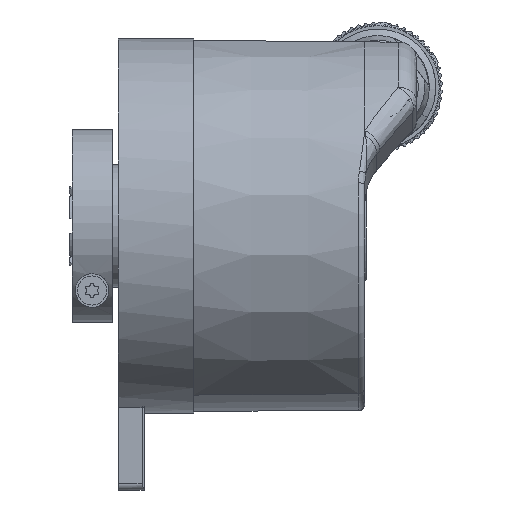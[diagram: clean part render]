
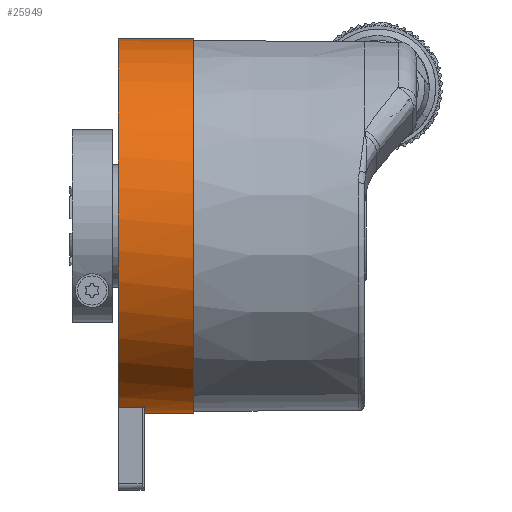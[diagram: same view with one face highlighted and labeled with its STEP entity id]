
A CAD part, front view. The second image highlights one B-rep face of the part: STEP entity #25949.
In plain terms, the highlighted cylindrical face has radius 29 mm (diameter 58 mm), a partial arc.
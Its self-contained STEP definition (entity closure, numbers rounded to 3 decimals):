
#324 = EDGE_CURVE ( 'NONE', #17308, #2619, #20985, .T. ) ;
#370 = DIRECTION ( 'NONE',  ( 0., 0., 1. ) ) ;
#721 = EDGE_CURVE ( 'NONE', #17308, #33579, #24724, .T. ) ;
#1397 = CARTESIAN_POINT ( 'NONE',  ( 8.068, 25.423, -29. ) ) ;
#2619 = VERTEX_POINT ( 'NONE', #34137 ) ;
#3555 = ORIENTED_EDGE ( 'NONE', *, *, #40364, .F. ) ;
#6349 = CARTESIAN_POINT ( 'NONE',  ( 8.068, 25.423, 29. ) ) ;
#7921 = AXIS2_PLACEMENT_3D ( 'NONE', #34942, #27356, #31761 ) ;
#10002 = ORIENTED_EDGE ( 'NONE', *, *, #324, .T. ) ;
#11710 = VECTOR ( 'NONE', #21032, 1000. ) ;
#14009 = DIRECTION ( 'NONE',  ( 1., 0., 0. ) ) ;
#14259 = VECTOR ( 'NONE', #20012, 1000. ) ;
#17308 = VERTEX_POINT ( 'NONE', #23270 ) ;
#17677 = EDGE_CURVE ( 'NONE', #2619, #47292, #31041, .T. ) ;
#18420 = AXIS2_PLACEMENT_3D ( 'NONE', #21044, #35992, #32335 ) ;
#19911 = CARTESIAN_POINT ( 'NONE',  ( -3.622, 18.423, -28.142 ) ) ;
#20012 = DIRECTION ( 'NONE',  ( 1., 0., 0. ) ) ;
#20247 = CARTESIAN_POINT ( 'NONE',  ( 8.068, 25.423, -29. ) ) ;
#20985 = CIRCLE ( 'NONE', #48359, 29. ) ;
#21032 = DIRECTION ( 'NONE',  ( -1., 0., 0. ) ) ;
#21044 = CARTESIAN_POINT ( 'NONE',  ( 8.068, 25.423, 0. ) ) ;
#23235 = EDGE_LOOP ( 'NONE', ( #32482, #43702, #30850, #10002, #48277, #3555 ) ) ;
#23270 = CARTESIAN_POINT ( 'NONE',  ( 0.378, 18.423, -28.142 ) ) ;
#24724 = LINE ( 'NONE', #24959, #11710 ) ;
#24959 = CARTESIAN_POINT ( 'NONE',  ( 8.068, 18.423, -28.142 ) ) ;
#25949 = ADVANCED_FACE ( 'NONE', ( #46171 ), #38355, .T. ) ;
#27356 = DIRECTION ( 'NONE',  ( 1., 0., 0. ) ) ;
#28380 = VERTEX_POINT ( 'NONE', #45968 ) ;
#30557 = DIRECTION ( 'NONE',  ( 1., 0., 0. ) ) ;
#30850 = ORIENTED_EDGE ( 'NONE', *, *, #721, .F. ) ;
#31041 = LINE ( 'NONE', #20247, #14259 ) ;
#31755 = EDGE_CURVE ( 'NONE', #36157, #33579, #46110, .T. ) ;
#31761 = DIRECTION ( 'NONE',  ( 0., 0., -1. ) ) ;
#31898 = EDGE_CURVE ( 'NONE', #36157, #28380, #35667, .T. ) ;
#32139 = VECTOR ( 'NONE', #46904, 1000. ) ;
#32335 = DIRECTION ( 'NONE',  ( 0., 0., -1. ) ) ;
#32482 = ORIENTED_EDGE ( 'NONE', *, *, #31898, .F. ) ;
#33579 = VERTEX_POINT ( 'NONE', #19911 ) ;
#34137 = CARTESIAN_POINT ( 'NONE',  ( 0.378, 25.423, -29. ) ) ;
#34942 = CARTESIAN_POINT ( 'NONE',  ( 8.068, 25.423, 0. ) ) ;
#35424 = CARTESIAN_POINT ( 'NONE',  ( -3.622, 25.423, 0. ) ) ;
#35667 = LINE ( 'NONE', #6349, #32139 ) ;
#35992 = DIRECTION ( 'NONE',  ( 1., 0., 0. ) ) ;
#36080 = CARTESIAN_POINT ( 'NONE',  ( -3.622, 25.423, 29. ) ) ;
#36157 = VERTEX_POINT ( 'NONE', #36080 ) ;
#38355 = CYLINDRICAL_SURFACE ( 'NONE', #7921, 29. ) ;
#39519 = CIRCLE ( 'NONE', #18420, 29. ) ;
#40364 = EDGE_CURVE ( 'NONE', #28380, #47292, #39519, .T. ) ;
#41441 = AXIS2_PLACEMENT_3D ( 'NONE', #35424, #30557, #45462 ) ;
#43354 = CARTESIAN_POINT ( 'NONE',  ( 0.378, 25.423, 0. ) ) ;
#43702 = ORIENTED_EDGE ( 'NONE', *, *, #31755, .T. ) ;
#45462 = DIRECTION ( 'NONE',  ( 0., 0., -1. ) ) ;
#45968 = CARTESIAN_POINT ( 'NONE',  ( 8.068, 25.423, 29. ) ) ;
#46110 = CIRCLE ( 'NONE', #41441, 29. ) ;
#46171 = FACE_OUTER_BOUND ( 'NONE', #23235, .T. ) ;
#46904 = DIRECTION ( 'NONE',  ( 1., 0., 0. ) ) ;
#47292 = VERTEX_POINT ( 'NONE', #1397 ) ;
#48277 = ORIENTED_EDGE ( 'NONE', *, *, #17677, .T. ) ;
#48359 = AXIS2_PLACEMENT_3D ( 'NONE', #43354, #14009, #370 ) ;
